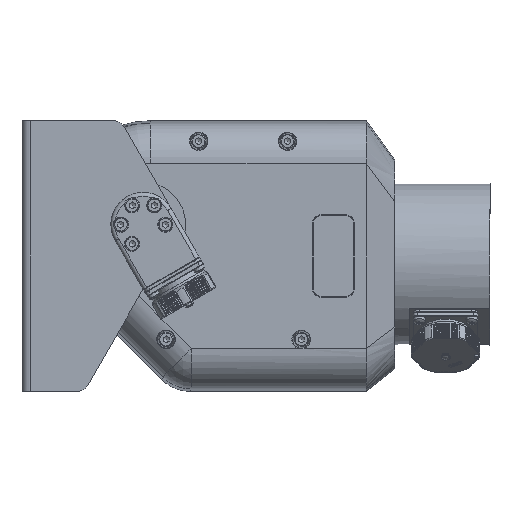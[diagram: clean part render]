
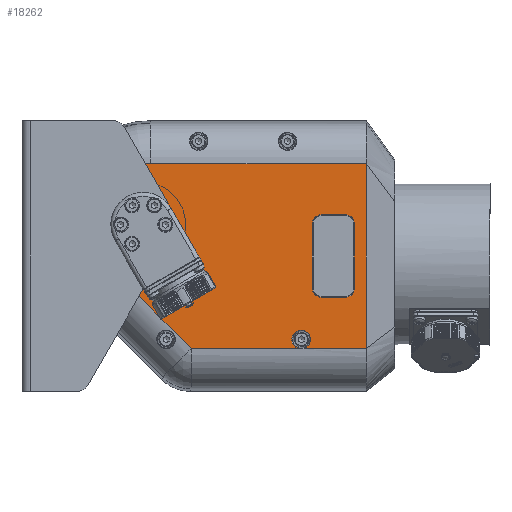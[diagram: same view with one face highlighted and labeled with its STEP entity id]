
A CAD part, left-side view. The second image highlights one B-rep face of the part: STEP entity #18262.
In plain terms, the highlighted planar face has unit normal (-1, 0, 0) as drawn and (0, 1, 0) by its records, which use the part's own axes.
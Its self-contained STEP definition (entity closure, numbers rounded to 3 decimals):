
#18262=ADVANCED_FACE('',(#36369,#36371,#36373),#36375,.F.);
#36369=FACE_BOUND('',#36370,.T.);
#36370=EDGE_LOOP('',(#51227,#51228,#51229,#51230,#51231,#51232,#51233,#51234,#51235,
#51236));
#36371=FACE_BOUND('',#36372,.T.);
#36372=EDGE_LOOP('',(#51237));
#36373=FACE_BOUND('',#36374,.T.);
#36374=EDGE_LOOP('',(#51238,#51239,#51240,#51241,#51242,#51243,#51244,#51245));
#36375=PLANE('',#36376);
#36376=AXIS2_PLACEMENT_3D('',#36377,#36378,#36379);
#36377=CARTESIAN_POINT('',(50.583,67.,-69.385));
#36378=DIRECTION('',(0.,-1.,0.));
#36379=DIRECTION('',(0.,0.,-1.));
#51227=ORIENTED_EDGE('',*,*,#57800,.F.);
#51228=ORIENTED_EDGE('',*,*,#57807,.F.);
#51229=ORIENTED_EDGE('',*,*,#57810,.F.);
#51230=ORIENTED_EDGE('',*,*,#57813,.F.);
#51231=ORIENTED_EDGE('',*,*,#57848,.F.);
#51232=ORIENTED_EDGE('',*,*,#57849,.F.);
#51233=ORIENTED_EDGE('',*,*,#57850,.F.);
#51234=ORIENTED_EDGE('',*,*,#57851,.F.);
#51235=ORIENTED_EDGE('',*,*,#57852,.F.);
#51236=ORIENTED_EDGE('',*,*,#57796,.T.);
#51237=ORIENTED_EDGE('',*,*,#57853,.T.);
#51238=ORIENTED_EDGE('',*,*,#57816,.F.);
#51239=ORIENTED_EDGE('',*,*,#57820,.F.);
#51240=ORIENTED_EDGE('',*,*,#57823,.F.);
#51241=ORIENTED_EDGE('',*,*,#57826,.F.);
#51242=ORIENTED_EDGE('',*,*,#57829,.F.);
#51243=ORIENTED_EDGE('',*,*,#57832,.F.);
#51244=ORIENTED_EDGE('',*,*,#57835,.F.);
#51245=ORIENTED_EDGE('',*,*,#57837,.F.);
#57796=EDGE_CURVE('',#66220,#66224,#66226,.T.);
#57800=EDGE_CURVE('',#66232,#66224,#66233,.T.);
#57807=EDGE_CURVE('',#66243,#66232,#66246,.T.);
#57810=EDGE_CURVE('',#66248,#66243,#66251,.T.);
#57813=EDGE_CURVE('',#66253,#66248,#66256,.T.);
#57816=EDGE_CURVE('',#66259,#66261,#66262,.T.);
#57820=EDGE_CURVE('',#66267,#66259,#66269,.T.);
#57823=EDGE_CURVE('',#66272,#66267,#66274,.T.);
#57826=EDGE_CURVE('',#66277,#66272,#66279,.T.);
#57829=EDGE_CURVE('',#66282,#66277,#66284,.T.);
#57832=EDGE_CURVE('',#66287,#66282,#66289,.T.);
#57835=EDGE_CURVE('',#66292,#66287,#66294,.T.);
#57837=EDGE_CURVE('',#66261,#66292,#66296,.T.);
#57848=EDGE_CURVE('',#66312,#66253,#66313,.T.);
#57849=EDGE_CURVE('',#66314,#66312,#66315,.T.);
#57850=EDGE_CURVE('',#66316,#66314,#66317,.T.);
#57851=EDGE_CURVE('',#66318,#66316,#66319,.T.);
#57852=EDGE_CURVE('',#66220,#66318,#66320,.T.);
#57853=EDGE_CURVE('',#66321,#66321,#66322,.T.);
#66220=VERTEX_POINT('',#97050);
#66224=VERTEX_POINT('',#97057);
#66226=LINE('',#97060,#97061);
#66232=VERTEX_POINT('',#97216);
#66233=LINE('',#97217,#97218);
#66243=VERTEX_POINT('',#97467);
#66246=CIRCLE('',#97473,26.462);
#66248=VERTEX_POINT('',#97481);
#66251=LINE('',#97487,#97488);
#66253=VERTEX_POINT('',#97493);
#66256=CIRCLE('',#97499,26.462);
#66259=VERTEX_POINT('',#97508);
#66261=VERTEX_POINT('',#97512);
#66262=CIRCLE('',#97513,4.4);
#66267=VERTEX_POINT('',#97526);
#66269=LINE('',#97530,#97531);
#66272=VERTEX_POINT('',#97537);
#66274=CIRCLE('',#97541,4.4);
#66277=VERTEX_POINT('',#97550);
#66279=LINE('',#97554,#97555);
#66282=VERTEX_POINT('',#97561);
#66284=CIRCLE('',#97565,4.4);
#66287=VERTEX_POINT('',#97574);
#66289=LINE('',#97578,#97579);
#66292=VERTEX_POINT('',#97585);
#66294=CIRCLE('',#97589,4.4);
#66296=LINE('',#97597,#97598);
#66312=VERTEX_POINT('',#97637);
#66313=LINE('',#97638,#97639);
#66314=VERTEX_POINT('',#97641);
#66315=LINE('',#97642,#97643);
#66316=VERTEX_POINT('',#97645);
#66317=CIRCLE('',#97646,4.65);
#66318=VERTEX_POINT('',#97650);
#66319=CIRCLE('',#97651,4.65);
#66320=LINE('',#97655,#97656);
#66321=VERTEX_POINT('',#97658);
#66322=CIRCLE('',#97659,15.);
#97050=CARTESIAN_POINT('',(3.457,67.,-12.5));
#97057=CARTESIAN_POINT('',(94.981,67.,-12.5));
#97060=CARTESIAN_POINT('',(3.457,67.,-12.5));
#97061=VECTOR('',#97062,1.);
#97062=DIRECTION('',(1.,0.,0.));
#97216=CARTESIAN_POINT('',(94.981,67.,-119.2));
#97217=CARTESIAN_POINT('',(94.981,67.,-119.2));
#97218=VECTOR('',#97219,1.);
#97219=DIRECTION('',(0.,0.,1.));
#97467=CARTESIAN_POINT('',(87.231,67.,-137.912));
#97473=AXIS2_PLACEMENT_3D('',#97474,#97475,#97476);
#97474=CARTESIAN_POINT('',(68.519,67.,-119.2));
#97475=DIRECTION('',(0.,-1.,0.));
#97476=DIRECTION('',(0.707,0.,-0.707));
#97481=CARTESIAN_POINT('',(83.431,67.,-141.712));
#97487=CARTESIAN_POINT('',(83.431,67.,-141.712));
#97488=VECTOR('',#97489,1.);
#97489=DIRECTION('',(0.707,0.,0.707));
#97493=CARTESIAN_POINT('',(46.007,67.,-141.712));
#97499=AXIS2_PLACEMENT_3D('',#97500,#97501,#97502);
#97500=CARTESIAN_POINT('',(64.719,67.,-123.));
#97501=DIRECTION('',(0.,-1.,0.));
#97502=DIRECTION('',(-0.707,0.,-0.707));
#97508=CARTESIAN_POINT('',(65.219,67.,-18.4));
#97512=CARTESIAN_POINT('',(69.619,67.,-22.8));
#97513=AXIS2_PLACEMENT_3D('',#97514,#97515,#97516);
#97514=CARTESIAN_POINT('',(65.219,67.,-22.8));
#97515=DIRECTION('',(0.,1.,0.));
#97516=DIRECTION('',(0.,0.,1.));
#97526=CARTESIAN_POINT('',(33.219,67.,-18.4));
#97530=CARTESIAN_POINT('',(33.219,67.,-18.4));
#97531=VECTOR('',#97532,1.);
#97532=DIRECTION('',(1.,0.,0.));
#97537=CARTESIAN_POINT('',(28.819,67.,-22.8));
#97541=AXIS2_PLACEMENT_3D('',#97542,#97543,#97544);
#97542=CARTESIAN_POINT('',(33.219,67.,-22.8));
#97543=DIRECTION('',(0.,1.,0.));
#97544=DIRECTION('',(-1.,0.,0.));
#97550=CARTESIAN_POINT('',(28.819,67.,-34.8));
#97554=CARTESIAN_POINT('',(28.819,67.,-34.8));
#97555=VECTOR('',#97556,1.);
#97556=DIRECTION('',(0.,0.,1.));
#97561=CARTESIAN_POINT('',(33.219,67.,-39.2));
#97565=AXIS2_PLACEMENT_3D('',#97566,#97567,#97568);
#97566=CARTESIAN_POINT('',(33.219,67.,-34.8));
#97567=DIRECTION('',(0.,1.,0.));
#97568=DIRECTION('',(0.,0.,-1.));
#97574=CARTESIAN_POINT('',(65.219,67.,-39.2));
#97578=CARTESIAN_POINT('',(65.219,67.,-39.2));
#97579=VECTOR('',#97580,1.);
#97580=DIRECTION('',(-1.,0.,0.));
#97585=CARTESIAN_POINT('',(69.619,67.,-34.8));
#97589=AXIS2_PLACEMENT_3D('',#97590,#97591,#97592);
#97590=CARTESIAN_POINT('',(65.219,67.,-34.8));
#97591=DIRECTION('',(0.,1.,0.));
#97592=DIRECTION('',(1.,0.,0.));
#97597=CARTESIAN_POINT('',(69.619,67.,-22.8));
#97598=VECTOR('',#97599,1.);
#97599=DIRECTION('',(0.,0.,-1.));
#97637=CARTESIAN_POINT('',(3.457,67.,-99.161));
#97638=CARTESIAN_POINT('',(3.457,67.,-99.161));
#97639=VECTOR('',#97640,1.);
#97640=DIRECTION('',(0.707,0.,-0.707));
#97641=CARTESIAN_POINT('',(3.457,67.,-45.98));
#97642=CARTESIAN_POINT('',(3.457,67.,-45.98));
#97643=VECTOR('',#97644,1.);
#97644=DIRECTION('',(0.,0.,-1.));
#97645=CARTESIAN_POINT('',(12.562,67.,-44.65));
#97646=AXIS2_PLACEMENT_3D('',#97647,#97648,#97649);
#97647=CARTESIAN_POINT('',(7.912,67.,-44.65));
#97648=DIRECTION('',(0.,1.,0.));
#97649=DIRECTION('',(1.,0.,0.));
#97650=CARTESIAN_POINT('',(3.457,67.,-43.32));
#97651=AXIS2_PLACEMENT_3D('',#97652,#97653,#97654);
#97652=CARTESIAN_POINT('',(7.912,67.,-44.65));
#97653=DIRECTION('',(0.,1.,0.));
#97654=DIRECTION('',(-0.958,0.,0.286));
#97655=CARTESIAN_POINT('',(3.457,67.,-12.5));
#97656=VECTOR('',#97657,1.);
#97657=DIRECTION('',(0.,0.,-1.));
#97658=CARTESIAN_POINT('',(79.762,67.,-123.));
#97659=AXIS2_PLACEMENT_3D('',#97660,#97661,#97662);
#97660=CARTESIAN_POINT('',(64.762,67.,-123.));
#97661=DIRECTION('',(0.,-1.,0.));
#97662=DIRECTION('',(1.,0.,0.));
